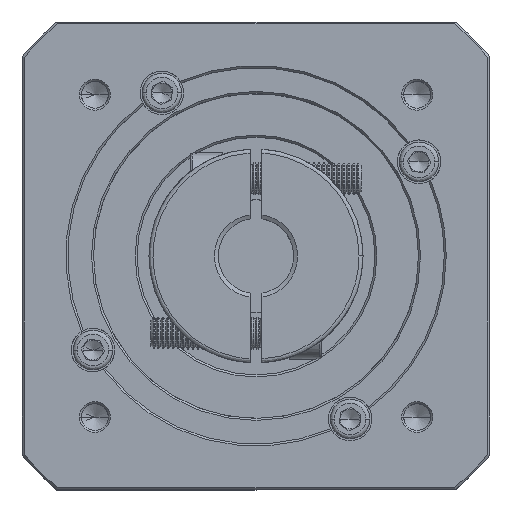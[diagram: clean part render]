
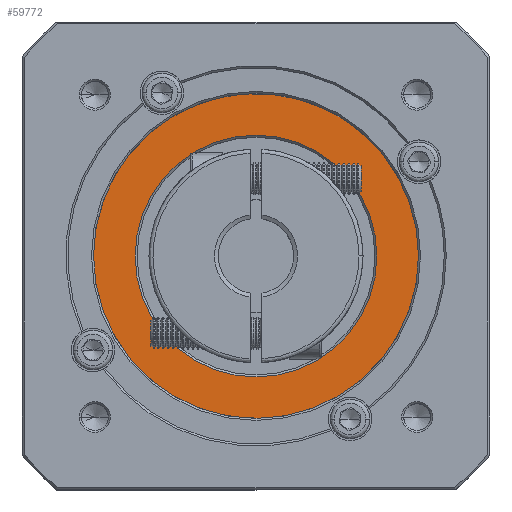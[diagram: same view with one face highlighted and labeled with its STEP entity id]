
A CAD part, top view. The second image highlights one B-rep face of the part: STEP entity #59772.
In plain terms, the highlighted planar face has unit normal (0, 0, 1).
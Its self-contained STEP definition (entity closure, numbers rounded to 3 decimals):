
#1157 = ORIENTED_EDGE ( 'NONE', *, *, #112814, .T. ) ;
#2100 = AXIS2_PLACEMENT_3D ( 'NONE', #45739, #112312, #55269 ) ;
#2494 = CIRCLE ( 'NONE', #41467, 41. ) ;
#6536 = CARTESIAN_POINT ( 'NONE',  ( 11.477, 137.748, -1.811 ) ) ;
#8450 = CARTESIAN_POINT ( 'NONE',  ( 50.335, 124.67, -1.811 ) ) ;
#11223 = CARTESIAN_POINT ( 'NONE',  ( 50.335, 124.67, -1.811 ) ) ;
#13685 = VERTEX_POINT ( 'NONE', #118080 ) ;
#14075 = DIRECTION ( 'NONE',  ( 0., 0., 1. ) ) ;
#14237 = CARTESIAN_POINT ( 'NONE',  ( 9.335, 124.67, -1.811 ) ) ;
#17735 = FACE_OUTER_BOUND ( 'NONE', #42961, .T. ) ;
#18065 = DIRECTION ( 'NONE',  ( 1., 0., 0. ) ) ;
#19172 = ORIENTED_EDGE ( 'NONE', *, *, #41239, .T. ) ;
#19365 = EDGE_CURVE ( 'NONE', #48969, #13685, #2494, .T. ) ;
#19602 = CIRCLE ( 'NONE', #118261, 41. ) ;
#20098 = CARTESIAN_POINT ( 'NONE',  ( 50.335, 124.67, -1.811 ) ) ;
#20461 = VERTEX_POINT ( 'NONE', #14237 ) ;
#20855 = DIRECTION ( 'NONE',  ( 1., 0., 0. ) ) ;
#21068 = CIRCLE ( 'NONE', #95692, 41. ) ;
#25036 = DIRECTION ( 'NONE',  ( 0., 0., 1. ) ) ;
#25328 = EDGE_CURVE ( 'NONE', #60545, #95751, #74164, .T. ) ;
#28994 = CARTESIAN_POINT ( 'NONE',  ( 50.335, 124.67, -1.811 ) ) ;
#29651 = DIRECTION ( 'NONE',  ( 1., 0., 0. ) ) ;
#32106 = DIRECTION ( 'NONE',  ( 0., 0., -1. ) ) ;
#32218 = EDGE_CURVE ( 'NONE', #61174, #48969, #21068, .T. ) ;
#35802 = CARTESIAN_POINT ( 'NONE',  ( 80.835, 124.67, -1.811 ) ) ;
#36290 = VERTEX_POINT ( 'NONE', #35802 ) ;
#38404 = CARTESIAN_POINT ( 'NONE',  ( 50.335, 124.67, -1.811 ) ) ;
#38461 = DIRECTION ( 'NONE',  ( 1., 0., 0. ) ) ;
#38712 = PLANE ( 'NONE',  #42132 ) ;
#40268 = EDGE_LOOP ( 'NONE', ( #104134, #87669 ) ) ;
#40820 = CARTESIAN_POINT ( 'NONE',  ( 89.194, 111.593, -1.811 ) ) ;
#41239 = EDGE_CURVE ( 'NONE', #95751, #20461, #119625, .T. ) ;
#41467 = AXIS2_PLACEMENT_3D ( 'NONE', #81900, #25036, #91470 ) ;
#42132 = AXIS2_PLACEMENT_3D ( 'NONE', #20098, #86552, #29651 ) ;
#42961 = EDGE_LOOP ( 'NONE', ( #116101, #110387, #119269, #116557, #19172, #1157 ) ) ;
#44298 = AXIS2_PLACEMENT_3D ( 'NONE', #71070, #14075, #80582 ) ;
#45739 = CARTESIAN_POINT ( 'NONE',  ( 50.335, 124.67, -1.811 ) ) ;
#45743 = EDGE_CURVE ( 'NONE', #13685, #60545, #19602, .T. ) ;
#48026 = DIRECTION ( 'NONE',  ( 1., 0., 0. ) ) ;
#48969 = VERTEX_POINT ( 'NONE', #40820 ) ;
#49798 = VERTEX_POINT ( 'NONE', #99385 ) ;
#55269 = DIRECTION ( 'NONE',  ( 1., 0., 0. ) ) ;
#55660 = AXIS2_PLACEMENT_3D ( 'NONE', #11223, #77785, #20855 ) ;
#59772 = ADVANCED_FACE ( 'NONE', ( #17735, #96577 ), #38712, .T. ) ;
#60545 = VERTEX_POINT ( 'NONE', #107627 ) ;
#61174 = VERTEX_POINT ( 'NONE', #119516 ) ;
#62130 = CIRCLE ( 'NONE', #77060, 30.5 ) ;
#71070 = CARTESIAN_POINT ( 'NONE',  ( 50.335, 124.67, -1.811 ) ) ;
#72215 = CIRCLE ( 'NONE', #2100, 41. ) ;
#74164 = CIRCLE ( 'NONE', #96592, 41. ) ;
#75027 = DIRECTION ( 'NONE',  ( 0., 0., 1. ) ) ;
#77060 = AXIS2_PLACEMENT_3D ( 'NONE', #88979, #32106, #98641 ) ;
#77785 = DIRECTION ( 'NONE',  ( 0., 0., -1. ) ) ;
#78252 = EDGE_CURVE ( 'NONE', #49798, #36290, #62130, .T. ) ;
#80582 = DIRECTION ( 'NONE',  ( 1., 0., 0. ) ) ;
#81900 = CARTESIAN_POINT ( 'NONE',  ( 50.335, 124.67, -1.811 ) ) ;
#86552 = DIRECTION ( 'NONE',  ( 0., 0., 1. ) ) ;
#87669 = ORIENTED_EDGE ( 'NONE', *, *, #78252, .T. ) ;
#88979 = CARTESIAN_POINT ( 'NONE',  ( 50.335, 124.67, -1.811 ) ) ;
#89809 = EDGE_CURVE ( 'NONE', #36290, #49798, #104948, .T. ) ;
#91470 = DIRECTION ( 'NONE',  ( 1., 0., 0. ) ) ;
#95514 = DIRECTION ( 'NONE',  ( 0., 0., 1. ) ) ;
#95692 = AXIS2_PLACEMENT_3D ( 'NONE', #8450, #75027, #18065 ) ;
#95751 = VERTEX_POINT ( 'NONE', #6536 ) ;
#96577 = FACE_BOUND ( 'NONE', #40268, .T. ) ;
#96592 = AXIS2_PLACEMENT_3D ( 'NONE', #38404, #104995, #48026 ) ;
#98641 = DIRECTION ( 'NONE',  ( 1., 0., 0. ) ) ;
#99385 = CARTESIAN_POINT ( 'NONE',  ( 19.835, 124.67, -1.811 ) ) ;
#104134 = ORIENTED_EDGE ( 'NONE', *, *, #89809, .T. ) ;
#104948 = CIRCLE ( 'NONE', #55660, 30.5 ) ;
#104995 = DIRECTION ( 'NONE',  ( 0., 0., 1. ) ) ;
#107627 = CARTESIAN_POINT ( 'NONE',  ( 18.57, 150.593, -1.811 ) ) ;
#110387 = ORIENTED_EDGE ( 'NONE', *, *, #19365, .T. ) ;
#112312 = DIRECTION ( 'NONE',  ( 0., 0., 1. ) ) ;
#112814 = EDGE_CURVE ( 'NONE', #20461, #61174, #72215, .T. ) ;
#116101 = ORIENTED_EDGE ( 'NONE', *, *, #32218, .T. ) ;
#116557 = ORIENTED_EDGE ( 'NONE', *, *, #25328, .T. ) ;
#118080 = CARTESIAN_POINT ( 'NONE',  ( 91.335, 124.67, -1.811 ) ) ;
#118261 = AXIS2_PLACEMENT_3D ( 'NONE', #28994, #95514, #38461 ) ;
#119269 = ORIENTED_EDGE ( 'NONE', *, *, #45743, .T. ) ;
#119516 = CARTESIAN_POINT ( 'NONE',  ( 82.1, 98.748, -1.811 ) ) ;
#119625 = CIRCLE ( 'NONE', #44298, 41. ) ;
